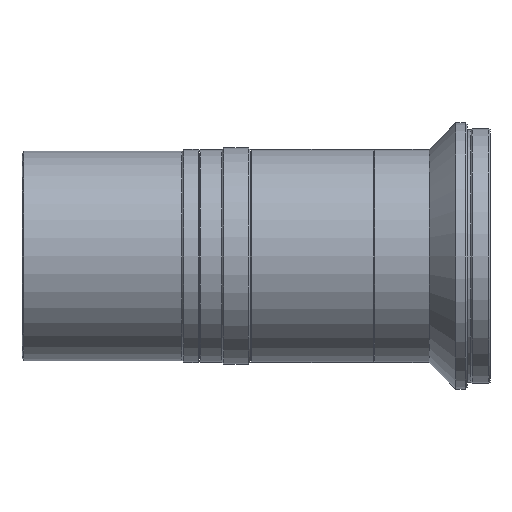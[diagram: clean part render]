
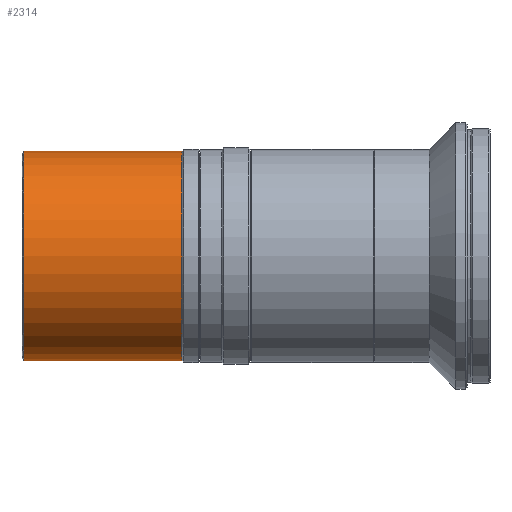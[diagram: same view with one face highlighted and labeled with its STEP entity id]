
A CAD part, front view. The second image highlights one B-rep face of the part: STEP entity #2314.
In plain terms, the highlighted cylindrical face has radius 27.5 mm (diameter 55 mm), a partial arc.
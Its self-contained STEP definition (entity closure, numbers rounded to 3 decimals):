
#1 = EDGE_LOOP ( 'NONE', ( #768, #919, #1605, #209 ) ) ;
#132 = VERTEX_POINT ( 'NONE', #479 ) ;
#161 = DIRECTION ( 'NONE',  ( 1., 0., 0. ) ) ;
#209 = ORIENTED_EDGE ( 'NONE', *, *, #2818, .F. ) ;
#405 = CARTESIAN_POINT ( 'NONE',  ( 322.912, 432.783, 0. ) ) ;
#479 = CARTESIAN_POINT ( 'NONE',  ( 202.912, 432.783, -27.5 ) ) ;
#488 = CARTESIAN_POINT ( 'NONE',  ( 202.912, 432.783, 0. ) ) ;
#522 = CYLINDRICAL_SURFACE ( 'NONE', #782, 27.5 ) ;
#577 = VERTEX_POINT ( 'NONE', #2075 ) ;
#768 = ORIENTED_EDGE ( 'NONE', *, *, #3281, .F. ) ;
#781 = DIRECTION ( 'NONE',  ( 1., 0., 0. ) ) ;
#782 = AXIS2_PLACEMENT_3D ( 'NONE', #405, #161, #1983 ) ;
#815 = CARTESIAN_POINT ( 'NONE',  ( 244.412, 432.783, 27.5 ) ) ;
#919 = ORIENTED_EDGE ( 'NONE', *, *, #2640, .T. ) ;
#1057 = CIRCLE ( 'NONE', #2799, 27.5 ) ;
#1224 = FACE_OUTER_BOUND ( 'NONE', #1, .T. ) ;
#1363 = AXIS2_PLACEMENT_3D ( 'NONE', #2912, #3174, #2675 ) ;
#1423 = CIRCLE ( 'NONE', #1363, 27.5 ) ;
#1468 = VECTOR ( 'NONE', #1567, 1000. ) ;
#1567 = DIRECTION ( 'NONE',  ( 1., 0., 0. ) ) ;
#1589 = CARTESIAN_POINT ( 'NONE',  ( 322.912, 432.783, -27.5 ) ) ;
#1605 = ORIENTED_EDGE ( 'NONE', *, *, #3222, .T. ) ;
#1806 = CARTESIAN_POINT ( 'NONE',  ( 202.912, 432.783, 27.5 ) ) ;
#1822 = LINE ( 'NONE', #1589, #1468 ) ;
#1877 = CARTESIAN_POINT ( 'NONE',  ( 322.912, 432.783, 27.5 ) ) ;
#1983 = DIRECTION ( 'NONE',  ( 0., 0., -1. ) ) ;
#2075 = CARTESIAN_POINT ( 'NONE',  ( 244.412, 432.783, -27.5 ) ) ;
#2083 = VERTEX_POINT ( 'NONE', #815 ) ;
#2302 = DIRECTION ( 'NONE',  ( 0., 0., -1. ) ) ;
#2314 = ADVANCED_FACE ( 'NONE', ( #1224 ), #522, .T. ) ;
#2579 = VECTOR ( 'NONE', #2880, 1000. ) ;
#2640 = EDGE_CURVE ( 'NONE', #3213, #132, #1057, .T. ) ;
#2675 = DIRECTION ( 'NONE',  ( 0., 0., -1. ) ) ;
#2700 = LINE ( 'NONE', #1877, #2579 ) ;
#2799 = AXIS2_PLACEMENT_3D ( 'NONE', #488, #781, #2302 ) ;
#2818 = EDGE_CURVE ( 'NONE', #2083, #577, #1423, .T. ) ;
#2880 = DIRECTION ( 'NONE',  ( 1., 0., 0. ) ) ;
#2912 = CARTESIAN_POINT ( 'NONE',  ( 244.412, 432.783, 0. ) ) ;
#3174 = DIRECTION ( 'NONE',  ( 1., 0., 0. ) ) ;
#3213 = VERTEX_POINT ( 'NONE', #1806 ) ;
#3222 = EDGE_CURVE ( 'NONE', #132, #577, #1822, .T. ) ;
#3281 = EDGE_CURVE ( 'NONE', #3213, #2083, #2700, .T. ) ;
